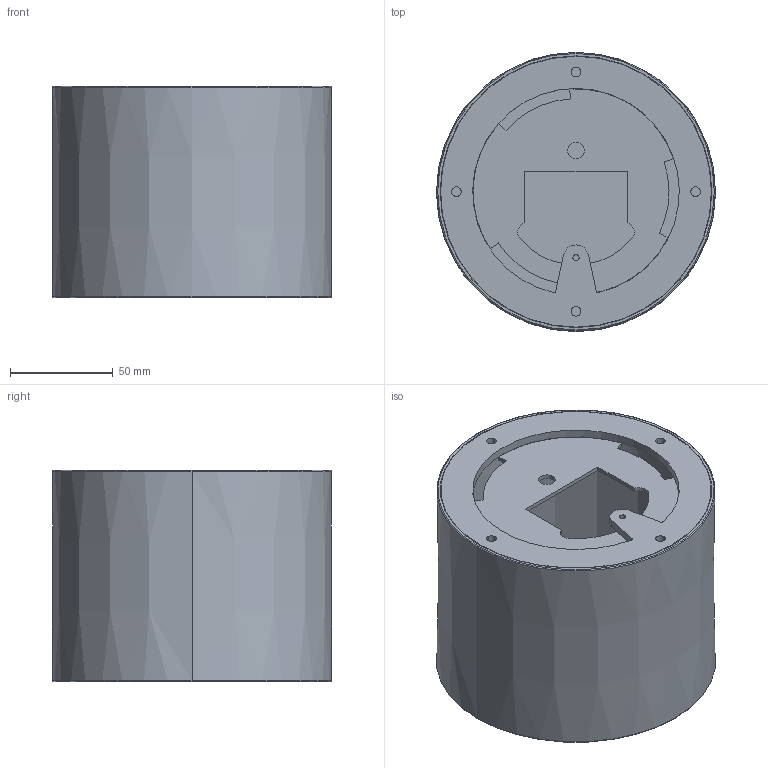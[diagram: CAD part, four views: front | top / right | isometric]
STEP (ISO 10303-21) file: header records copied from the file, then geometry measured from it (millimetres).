
FILE_DESCRIPTION((''),'2;1');
FILE_NAME('ASM0001_ASM','2026-06-25T16:41:50',('Administrator'),(''),'CREO PARAMETRIC BY PTC INC, 2021164','CREO PARAMETRIC BY PTC INC, 2021164','');
FILE_SCHEMA(('CONFIG_CONTROL_DESIGN','SHAPE_APPEARANCE_LAYERS_GROUPS'));
Length unit declared in the file: millimetre
Products named in the file (5): PRT0001; PRT0002; PRT0003; PRT0004; ASM0001_ASM
Assembly tree (4 placements, depth 2):
  ASM0001_ASM
    PRT0001
    PRT0002
    PRT0003
    PRT0004
Bounding box: 135.5 x 135.5 x 102.5 mm (x, y, z)
Volume: 189120.4 mm3; surface area: 143528.6 mm2
Topology: 4 solids, 4 shells, 60 faces, 148 edges, 96 vertices
Faces by surface type: cylinder 29, plane 19, cone 8, torus 4
Entity records: 2879 total; most frequent: DIRECTION 364, CARTESIAN_POINT 313, ORIENTED_EDGE 296, PRESENTATION_STYLE_ASSIGNMENT 212, STYLED_ITEM 212, CURVE_STYLE 148, EDGE_CURVE 148, AXIS2_PLACEMENT_3D 147
